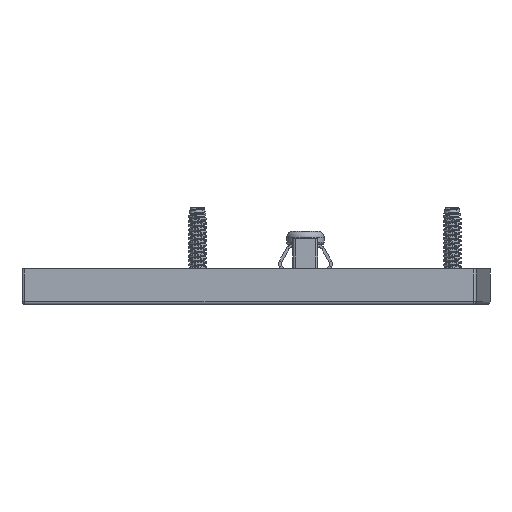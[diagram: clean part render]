
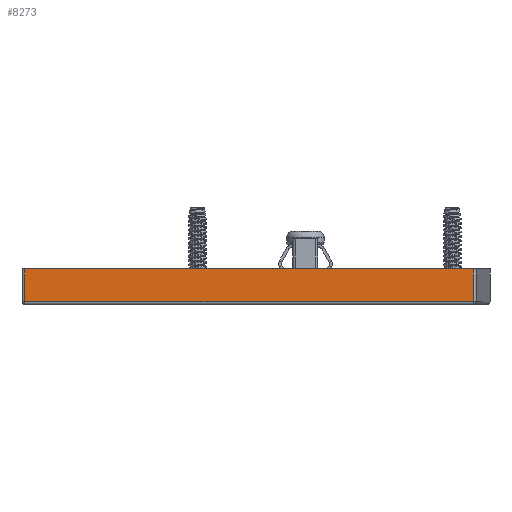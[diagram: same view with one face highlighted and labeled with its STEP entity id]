
A CAD part, left-side view. The second image highlights one B-rep face of the part: STEP entity #8273.
In plain terms, the highlighted planar face has unit normal (-1, 0, 0).
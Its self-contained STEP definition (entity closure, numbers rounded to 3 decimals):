
#145 = ORIENTED_EDGE ( 'NONE', *, *, #5741, .T. ) ;
#383 = CARTESIAN_POINT ( 'NONE',  ( -43., 69.56, -2.75 ) ) ;
#602 = ORIENTED_EDGE ( 'NONE', *, *, #19401, .T. ) ;
#1751 = DIRECTION ( 'NONE',  ( 0., -1., 0. ) ) ;
#2429 = DIRECTION ( 'NONE',  ( 0., 0., -1. ) ) ;
#2680 = VECTOR ( 'NONE', #2429, 1000. ) ;
#3193 = ORIENTED_EDGE ( 'NONE', *, *, #14818, .F. ) ;
#4818 = LINE ( 'NONE', #10020, #6801 ) ;
#5474 = DIRECTION ( 'NONE',  ( 1., 0., 0. ) ) ;
#5703 = LINE ( 'NONE', #15863, #2680 ) ;
#5741 = EDGE_CURVE ( 'NONE', #9076, #6923, #5703, .T. ) ;
#6801 = VECTOR ( 'NONE', #20507, 1000. ) ;
#6923 = VERTEX_POINT ( 'NONE', #383 ) ;
#7174 = FACE_OUTER_BOUND ( 'NONE', #7331, .T. ) ;
#7331 = EDGE_LOOP ( 'NONE', ( #145, #14629, #602, #3193 ) ) ;
#7854 = VECTOR ( 'NONE', #1751, 1000. ) ;
#8273 = ADVANCED_FACE ( 'NONE', ( #7174 ), #14059, .F. ) ;
#9076 = VERTEX_POINT ( 'NONE', #20337 ) ;
#10020 = CARTESIAN_POINT ( 'NONE',  ( -43., -12.327, 3.25 ) ) ;
#10706 = VERTEX_POINT ( 'NONE', #15333 ) ;
#10920 = EDGE_CURVE ( 'NONE', #6923, #10706, #21219, .T. ) ;
#11054 = CARTESIAN_POINT ( 'NONE',  ( -43., -12.327, -2.75 ) ) ;
#11679 = AXIS2_PLACEMENT_3D ( 'NONE', #20944, #5474, #17786 ) ;
#14059 = PLANE ( 'NONE',  #11679 ) ;
#14547 = DIRECTION ( 'NONE',  ( 0., -1., 0. ) ) ;
#14629 = ORIENTED_EDGE ( 'NONE', *, *, #10920, .T. ) ;
#14818 = EDGE_CURVE ( 'NONE', #9076, #19191, #17220, .T. ) ;
#15333 = CARTESIAN_POINT ( 'NONE',  ( -43., -12.327, -2.75 ) ) ;
#15648 = CARTESIAN_POINT ( 'NONE',  ( -43., -12.327, 3.25 ) ) ;
#15863 = CARTESIAN_POINT ( 'NONE',  ( -43., 69.56, 3.25 ) ) ;
#17220 = LINE ( 'NONE', #18800, #7854 ) ;
#17786 = DIRECTION ( 'NONE',  ( 0., 1., 0. ) ) ;
#18800 = CARTESIAN_POINT ( 'NONE',  ( -43., 70.06, 3.25 ) ) ;
#19191 = VERTEX_POINT ( 'NONE', #15648 ) ;
#19401 = EDGE_CURVE ( 'NONE', #10706, #19191, #4818, .T. ) ;
#19656 = VECTOR ( 'NONE', #14547, 1000. ) ;
#20337 = CARTESIAN_POINT ( 'NONE',  ( -43., 69.56, 3.25 ) ) ;
#20507 = DIRECTION ( 'NONE',  ( 0., 0., 1. ) ) ;
#20944 = CARTESIAN_POINT ( 'NONE',  ( -43., 70.06, 3.25 ) ) ;
#21219 = LINE ( 'NONE', #11054, #19656 ) ;
